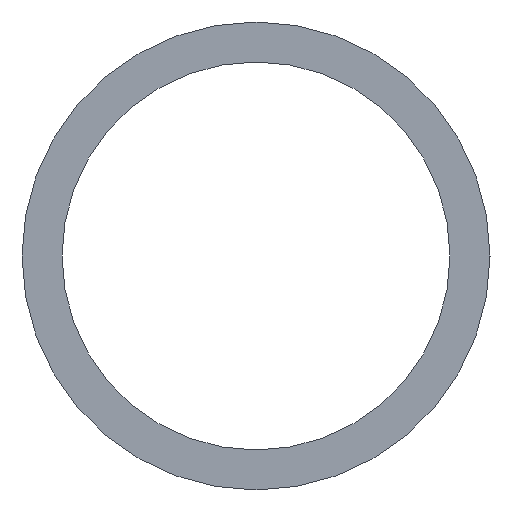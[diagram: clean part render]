
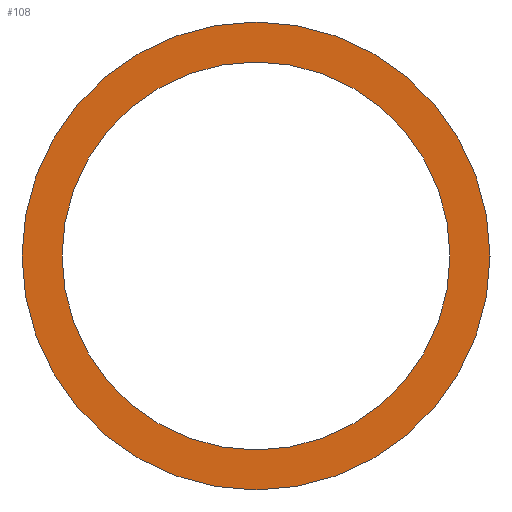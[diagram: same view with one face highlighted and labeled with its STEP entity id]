
A CAD part, left-side view. The second image highlights one B-rep face of the part: STEP entity #108.
In plain terms, the highlighted planar face has unit normal (-1, 0, 0).
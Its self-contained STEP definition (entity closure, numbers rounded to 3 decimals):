
#5 = DIRECTION ( 'NONE',  ( 0., 1., 0. ) ) ;
#12 = EDGE_CURVE ( 'NONE', #97, #46, #161, .T. ) ;
#23 = AXIS2_PLACEMENT_3D ( 'NONE', #129, #174, #145 ) ;
#25 = DIRECTION ( 'NONE',  ( 0., 1., 0. ) ) ;
#28 = FACE_OUTER_BOUND ( 'NONE', #197, .T. ) ;
#37 = DIRECTION ( 'NONE',  ( 1., 0., 0. ) ) ;
#39 = ORIENTED_EDGE ( 'NONE', *, *, #119, .T. ) ;
#41 = CARTESIAN_POINT ( 'NONE',  ( 6030., 3775., 2995.85 ) ) ;
#43 = DIRECTION ( 'NONE',  ( 1., 0., 0. ) ) ;
#44 = CARTESIAN_POINT ( 'NONE',  ( 6030., 3763.85, 2995.85 ) ) ;
#46 = VERTEX_POINT ( 'NONE', #120 ) ;
#56 = ORIENTED_EDGE ( 'NONE', *, *, #12, .F. ) ;
#59 = FACE_BOUND ( 'NONE', #127, .T. ) ;
#64 = AXIS2_PLACEMENT_3D ( 'NONE', #41, #43, #25 ) ;
#69 = CARTESIAN_POINT ( 'NONE',  ( 6030., 3775., 2995.85 ) ) ;
#72 = DIRECTION ( 'NONE',  ( 0., 1., 0. ) ) ;
#77 = PLANE ( 'NONE',  #64 ) ;
#94 = CARTESIAN_POINT ( 'NONE',  ( 6030., 3775., 2995.85 ) ) ;
#97 = VERTEX_POINT ( 'NONE', #158 ) ;
#101 = AXIS2_PLACEMENT_3D ( 'NONE', #69, #37, #72 ) ;
#103 = VERTEX_POINT ( 'NONE', #44 ) ;
#108 = ADVANCED_FACE ( 'NONE', ( #28, #59 ), #77, .F. ) ;
#110 = DIRECTION ( 'NONE',  ( 1., 0., 0. ) ) ;
#112 = DIRECTION ( 'NONE',  ( 0., 1., 0. ) ) ;
#119 = EDGE_CURVE ( 'NONE', #144, #103, #176, .T. ) ;
#120 = CARTESIAN_POINT ( 'NONE',  ( 6030., 3761.55, 2995.85 ) ) ;
#122 = AXIS2_PLACEMENT_3D ( 'NONE', #205, #188, #112 ) ;
#127 = EDGE_LOOP ( 'NONE', ( #132, #39 ) ) ;
#129 = CARTESIAN_POINT ( 'NONE',  ( 6030., 3775., 2995.85 ) ) ;
#132 = ORIENTED_EDGE ( 'NONE', *, *, #193, .T. ) ;
#144 = VERTEX_POINT ( 'NONE', #196 ) ;
#145 = DIRECTION ( 'NONE',  ( 0., 1., 0. ) ) ;
#146 = EDGE_CURVE ( 'NONE', #46, #97, #152, .T. ) ;
#147 = ORIENTED_EDGE ( 'NONE', *, *, #146, .F. ) ;
#152 = CIRCLE ( 'NONE', #101, 13.45 ) ;
#158 = CARTESIAN_POINT ( 'NONE',  ( 6030., 3788.45, 2995.85 ) ) ;
#161 = CIRCLE ( 'NONE', #122, 13.45 ) ;
#174 = DIRECTION ( 'NONE',  ( 1., 0., 0. ) ) ;
#176 = CIRCLE ( 'NONE', #203, 11.15 ) ;
#188 = DIRECTION ( 'NONE',  ( 1., 0., 0. ) ) ;
#193 = EDGE_CURVE ( 'NONE', #103, #144, #195, .T. ) ;
#195 = CIRCLE ( 'NONE', #23, 11.15 ) ;
#196 = CARTESIAN_POINT ( 'NONE',  ( 6030., 3786.15, 2995.85 ) ) ;
#197 = EDGE_LOOP ( 'NONE', ( #147, #56 ) ) ;
#203 = AXIS2_PLACEMENT_3D ( 'NONE', #94, #110, #5 ) ;
#205 = CARTESIAN_POINT ( 'NONE',  ( 6030., 3775., 2995.85 ) ) ;
